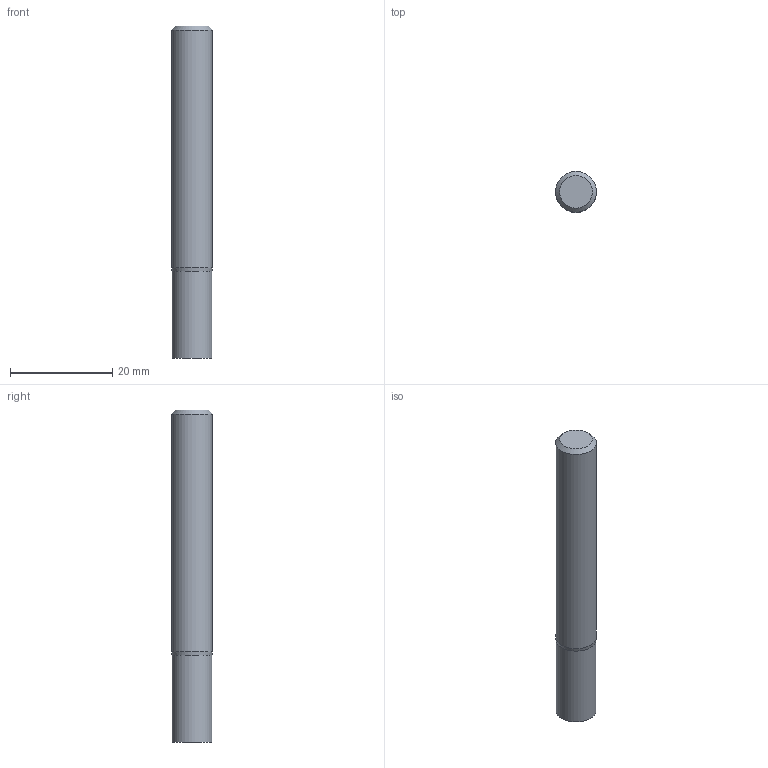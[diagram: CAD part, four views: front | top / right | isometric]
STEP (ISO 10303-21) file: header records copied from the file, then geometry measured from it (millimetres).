
FILE_DESCRIPTION((''),'2;1');
FILE_NAME('C:\Users\nsx150\AppData\Local\Temp\Mastercam 2021\98T1Q6BTT1\TEMP.step','2021-10-21T14:49:29',(''),(''),'STEP Write','Mastercam 2021 ... CNC Software, Inc.','');
FILE_SCHEMA(('AUTOMOTIVE_DESIGN'));
Length unit declared in the file: millimetre
Products named in the file (1): None
Bounding box: 8 x 8 x 65 mm (x, y, z)
Volume: 3216.8 mm3; surface area: 1803.9 mm2
Topology: 2 solids, 2 shells, 8 faces, 10 edges, 6 vertices
Faces by surface type: plane 4, cylinder 2, cone 2
Full cylindrical faces by diameter (mm): 7.8 x1, 8 x1
Entity records: 190 total; most frequent: DIRECTION 32, CARTESIAN_POINT 22, AXIS2_PLACEMENT_3D 16, ORIENTED_EDGE 12, EDGE_LOOP 12, STYLED_ITEM 11, ADVANCED_FACE 8, VERTEX_POINT 6
